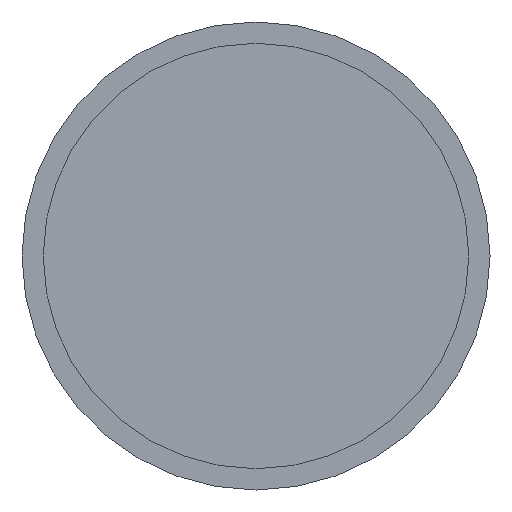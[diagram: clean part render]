
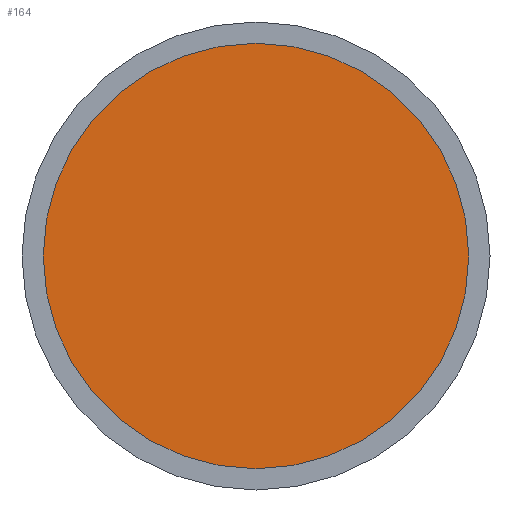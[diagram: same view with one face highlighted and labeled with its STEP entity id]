
A CAD part, front view. The second image highlights one B-rep face of the part: STEP entity #164.
In plain terms, the highlighted planar face has unit normal (0, -1, 0).
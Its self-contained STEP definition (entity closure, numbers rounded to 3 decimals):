
#13 = CIRCLE ( 'NONE', #124, 1.5 ) ;
#17 = CARTESIAN_POINT ( 'NONE',  ( 0., -5.1, 0. ) ) ;
#21 = DIRECTION ( 'NONE',  ( 0., 0., -1. ) ) ;
#23 = AXIS2_PLACEMENT_3D ( 'NONE', #211, #200, #65 ) ;
#31 = DIRECTION ( 'NONE',  ( 0., 0., -1. ) ) ;
#36 = EDGE_CURVE ( 'NONE', #126, #189, #54, .T. ) ;
#54 = CIRCLE ( 'NONE', #220, 1.5 ) ;
#65 = DIRECTION ( 'NONE',  ( 0., 0., -1. ) ) ;
#85 = FACE_OUTER_BOUND ( 'NONE', #127, .T. ) ;
#96 = ORIENTED_EDGE ( 'NONE', *, *, #184, .F. ) ;
#110 = DIRECTION ( 'NONE',  ( 0., 1., 0. ) ) ;
#124 = AXIS2_PLACEMENT_3D ( 'NONE', #196, #183, #31 ) ;
#126 = VERTEX_POINT ( 'NONE', #133 ) ;
#127 = EDGE_LOOP ( 'NONE', ( #96, #209 ) ) ;
#132 = PLANE ( 'NONE',  #23 ) ;
#133 = CARTESIAN_POINT ( 'NONE',  ( 0., -5.1, 1.5 ) ) ;
#164 = ADVANCED_FACE ( 'NONE', ( #85 ), #132, .T. ) ;
#183 = DIRECTION ( 'NONE',  ( 0., 1., 0. ) ) ;
#184 = EDGE_CURVE ( 'NONE', #189, #126, #13, .T. ) ;
#189 = VERTEX_POINT ( 'NONE', #199 ) ;
#196 = CARTESIAN_POINT ( 'NONE',  ( 0., -5.1, 0. ) ) ;
#199 = CARTESIAN_POINT ( 'NONE',  ( 0., -5.1, -1.5 ) ) ;
#200 = DIRECTION ( 'NONE',  ( 0., -1., 0. ) ) ;
#209 = ORIENTED_EDGE ( 'NONE', *, *, #36, .F. ) ;
#211 = CARTESIAN_POINT ( 'NONE',  ( 0., -5.1, 0. ) ) ;
#220 = AXIS2_PLACEMENT_3D ( 'NONE', #17, #110, #21 ) ;
